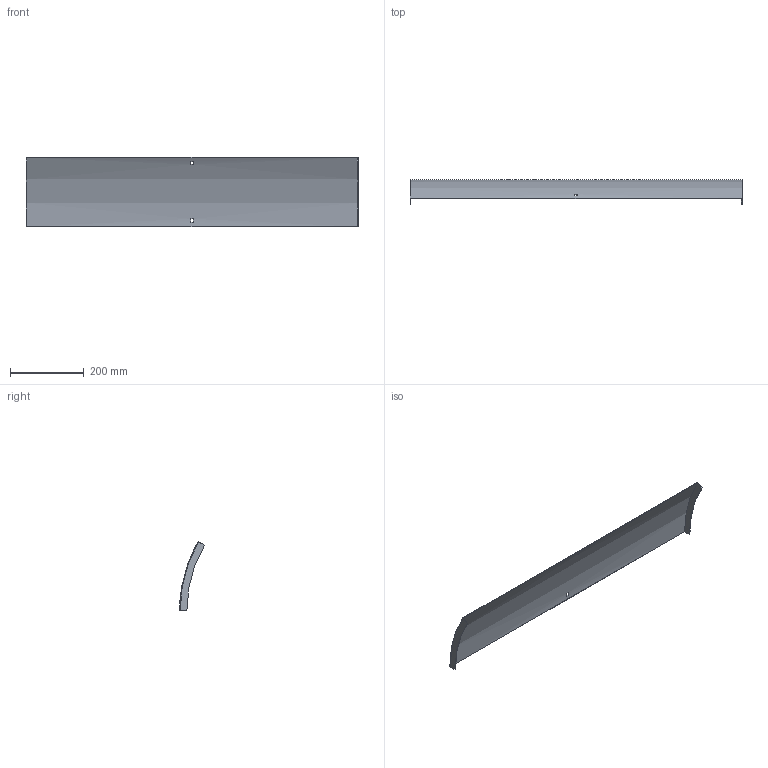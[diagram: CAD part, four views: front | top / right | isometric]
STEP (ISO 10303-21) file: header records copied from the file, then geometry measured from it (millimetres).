
FILE_DESCRIPTION (( 'STEP AP214' ), '1' );
FILE_NAME ('B2_35N3C900.step', '2025-02-21T10:32:11', ( '' ), ( '' ), 'SwSTEP 2.0', 'SolidWorks 2023', '' );
FILE_SCHEMA (( 'AUTOMOTIVE_DESIGN' ));
Length unit declared in the file: millimetre
Products named in the file (1): B2_35N3C900
Bounding box: 903 x 67.76 x 188.25 mm (x, y, z)
Volume: 276940.3 mm3; surface area: 372728 mm2
Topology: 1 solids, 1 shells, 18 faces, 48 edges, 32 vertices
Faces by surface type: plane 14, cylinder 4
Entity records: 599 total; most frequent: DIRECTION 102, CARTESIAN_POINT 99, ORIENTED_EDGE 96, EDGE_CURVE 48, AXIS2_PLACEMENT_3D 35, LINE 32, VERTEX_POINT 32, VECTOR 32
